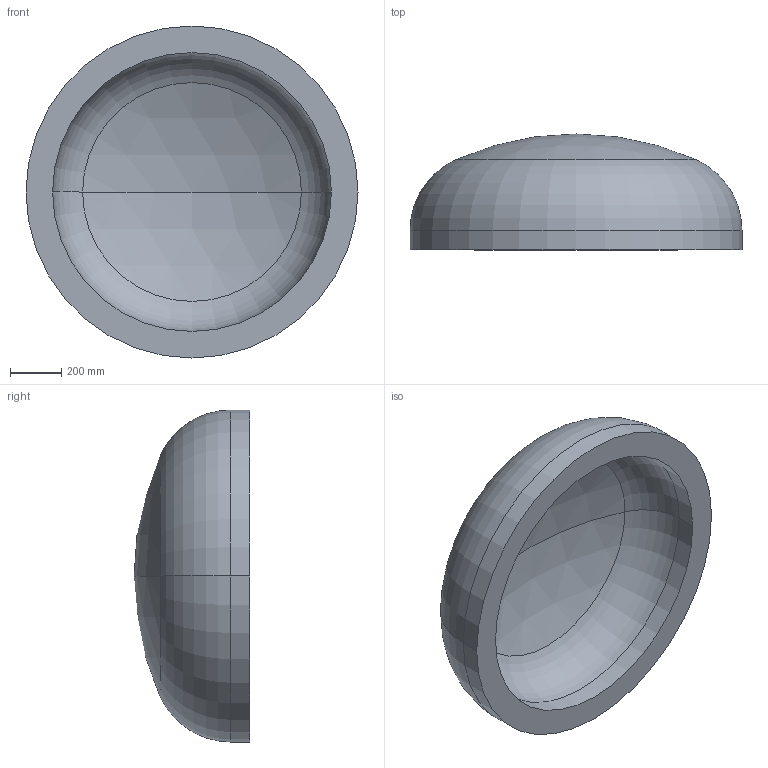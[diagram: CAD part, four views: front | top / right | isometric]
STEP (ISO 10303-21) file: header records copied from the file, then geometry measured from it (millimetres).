
FILE_DESCRIPTION (( 'STEP AP203' ), '1' );
FILE_NAME ('DIN 28013 Korbbogenform_-_Boden DIN 28013 - 1300 x 75 - I - s=104.step', '2016-07-01T10:02:32', ( '' ), ( '' ), 'SwSTEP 2.0', 'SolidWorks 2013', '' );
FILE_SCHEMA (( 'CONFIG_CONTROL_DESIGN' ));
Length unit declared in the file: millimetre
Products named in the file (1): DIN 28013 Korbbogenform_-_Boden DIN 28013 - 1300 x 75 - I - s=104
Bounding box: 1300 x 453.57 x 1300 mm (x, y, z)
Volume: 202191301.1 mm3; surface area: 4301710.3 mm2
Topology: 1 solids, 1 shells, 13 faces, 24 edges, 14 vertices
Faces by surface type: torus 4, cylinder 4, sphere 4, plane 1
Entity records: 407 total; most frequent: DIRECTION 72, CARTESIAN_POINT 52, ORIENTED_EDGE 48, AXIS2_PLACEMENT_3D 34, EDGE_CURVE 24, CIRCLE 20, EDGE_LOOP 14, VERTEX_POINT 14
